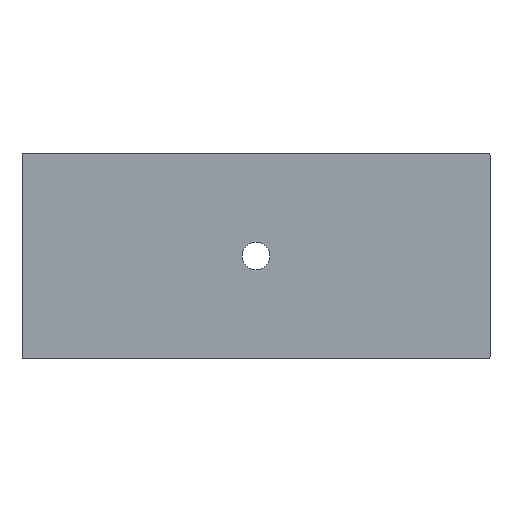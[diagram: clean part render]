
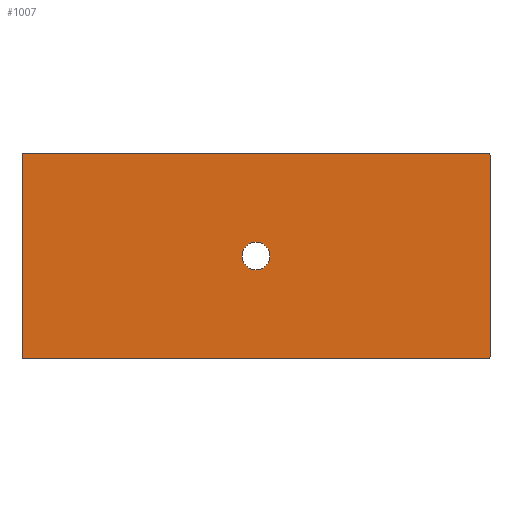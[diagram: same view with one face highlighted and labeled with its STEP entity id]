
A CAD part, front view. The second image highlights one B-rep face of the part: STEP entity #1007.
In plain terms, the highlighted planar face has unit normal (0, -1, 0).
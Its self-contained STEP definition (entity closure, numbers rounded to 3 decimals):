
#45 = CARTESIAN_POINT ( 'NONE',  ( -797.929, 0., -350. ) ) ;
#86 = PLANE ( 'NONE',  #1241 ) ;
#93 = CARTESIAN_POINT ( 'NONE',  ( -800., 0., -347.929 ) ) ;
#97 = CARTESIAN_POINT ( 'NONE',  ( 795.001, 0., 350. ) ) ;
#168 = EDGE_CURVE ( 'NONE', #1772, #2523, #1631, .T. ) ;
#183 = VERTEX_POINT ( 'NONE', #217 ) ;
#214 = VERTEX_POINT ( 'NONE', #835 ) ;
#217 = CARTESIAN_POINT ( 'NONE',  ( -795.001, 0., 350. ) ) ;
#255 = CARTESIAN_POINT ( 'NONE',  ( -800., 0., 345.001 ) ) ;
#306 = CARTESIAN_POINT ( 'NONE',  ( -800., 0., 345.001 ) ) ;
#323 = CARTESIAN_POINT ( 'NONE',  ( -800., 0., 350. ) ) ;
#379 = EDGE_CURVE ( 'NONE', #397, #1138, #1941, .T. ) ;
#390 = CARTESIAN_POINT ( 'NONE',  ( -800., 0., -345.001 ) ) ;
#397 = VERTEX_POINT ( 'NONE', #1919 ) ;
#431 = CARTESIAN_POINT ( 'NONE',  ( 800., 0., -345.001 ) ) ;
#460 = EDGE_CURVE ( 'NONE', #1871, #214, #1518, .T. ) ;
#464 = CARTESIAN_POINT ( 'NONE',  ( -797.929, 0., 350. ) ) ;
#490 = CARTESIAN_POINT ( 'NONE',  ( 795.001, 0., -350. ) ) ;
#586 = VECTOR ( 'NONE', #1129, 1000. ) ;
#675 = CARTESIAN_POINT ( 'NONE',  ( 800., 0., 345.001 ) ) ;
#679 = AXIS2_PLACEMENT_3D ( 'NONE', #2594, #2488, #895 ) ;
#687 = EDGE_CURVE ( 'NONE', #183, #865, #2337, .T. ) ;
#715 = VECTOR ( 'NONE', #2592, 1000. ) ;
#740 = EDGE_CURVE ( 'NONE', #183, #1138, #2518, .T. ) ;
#799 = CARTESIAN_POINT ( 'NONE',  ( 800., 0., -347.929 ) ) ;
#835 = CARTESIAN_POINT ( 'NONE',  ( -795.001, 0., -350. ) ) ;
#865 = VERTEX_POINT ( 'NONE', #1882 ) ;
#889 = CARTESIAN_POINT ( 'NONE',  ( 800., 0., 347.929 ) ) ;
#895 = DIRECTION ( 'NONE',  ( 0., 0., -1. ) ) ;
#902 = DIRECTION ( 'NONE',  ( 0., 0., 1. ) ) ;
#938 = EDGE_CURVE ( 'NONE', #1772, #865, #2164, .T. ) ;
#952 = ORIENTED_EDGE ( 'NONE', *, *, #740, .T. ) ;
#981 = CARTESIAN_POINT ( 'NONE',  ( 795.001, 0., -350. ) ) ;
#1007 = ADVANCED_FACE ( 'NONE', ( #2521, #1905 ), #86, .F. ) ;
#1020 = ORIENTED_EDGE ( 'NONE', *, *, #379, .F. ) ;
#1063 = DIRECTION ( 'NONE',  ( 0., 1., 0. ) ) ;
#1065 = ORIENTED_EDGE ( 'NONE', *, *, #2228, .T. ) ;
#1083 = CARTESIAN_POINT ( 'NONE',  ( -795.001, 0., -350. ) ) ;
#1092 =( BOUNDED_CURVE ( )  B_SPLINE_CURVE ( 3, ( #981, #1815, #799, #1989 ),
 .UNSPECIFIED., .F., .T. ) 
 B_SPLINE_CURVE_WITH_KNOTS ( ( 4, 4 ),
 ( 5.498, 7.068 ),
 .UNSPECIFIED. ) 
 CURVE ( )  GEOMETRIC_REPRESENTATION_ITEM ( )  RATIONAL_B_SPLINE_CURVE ( ( 1., 0.805, 0.805, 1. ) ) 
 REPRESENTATION_ITEM ( '' )  );
#1129 = DIRECTION ( 'NONE',  ( 1., 0., 0. ) ) ;
#1138 = VERTEX_POINT ( 'NONE', #306 ) ;
#1217 = EDGE_CURVE ( 'NONE', #1871, #2523, #1092, .T. ) ;
#1241 = AXIS2_PLACEMENT_3D ( 'NONE', #2057, #1063, #902 ) ;
#1283 = EDGE_LOOP ( 'NONE', ( #1747, #1455, #1608, #1644, #1895, #952, #1020, #1065 ) ) ;
#1336 = CARTESIAN_POINT ( 'NONE',  ( 800., 0., -350. ) ) ;
#1397 = CARTESIAN_POINT ( 'NONE',  ( 0., 0., -47.5 ) ) ;
#1455 = ORIENTED_EDGE ( 'NONE', *, *, #1217, .T. ) ;
#1467 = CARTESIAN_POINT ( 'NONE',  ( 797.929, 0., 350. ) ) ;
#1502 = CARTESIAN_POINT ( 'NONE',  ( 800., 0., 345.001 ) ) ;
#1518 = LINE ( 'NONE', #1336, #2031 ) ;
#1543 = DIRECTION ( 'NONE',  ( 0., 0., 1. ) ) ;
#1608 = ORIENTED_EDGE ( 'NONE', *, *, #168, .F. ) ;
#1615 = CARTESIAN_POINT ( 'NONE',  ( 800., 0., 350. ) ) ;
#1631 = LINE ( 'NONE', #1615, #715 ) ;
#1644 = ORIENTED_EDGE ( 'NONE', *, *, #938, .T. ) ;
#1736 = DIRECTION ( 'NONE',  ( -1., 0., 0. ) ) ;
#1747 = ORIENTED_EDGE ( 'NONE', *, *, #460, .F. ) ;
#1772 = VERTEX_POINT ( 'NONE', #1502 ) ;
#1815 = CARTESIAN_POINT ( 'NONE',  ( 797.929, 0., -350. ) ) ;
#1871 = VERTEX_POINT ( 'NONE', #490 ) ;
#1882 = CARTESIAN_POINT ( 'NONE',  ( 795.001, 0., 350. ) ) ;
#1893 = CARTESIAN_POINT ( 'NONE',  ( -800., 0., 347.929 ) ) ;
#1895 = ORIENTED_EDGE ( 'NONE', *, *, #687, .F. ) ;
#1905 = FACE_OUTER_BOUND ( 'NONE', #1283, .T. ) ;
#1915 = CARTESIAN_POINT ( 'NONE',  ( -795.001, 0., 350. ) ) ;
#1919 = CARTESIAN_POINT ( 'NONE',  ( -800., 0., -345.001 ) ) ;
#1941 = LINE ( 'NONE', #2525, #2412 ) ;
#1989 = CARTESIAN_POINT ( 'NONE',  ( 800., 0., -345.001 ) ) ;
#2031 = VECTOR ( 'NONE', #1736, 1000. ) ;
#2057 = CARTESIAN_POINT ( 'NONE',  ( 0., 0., 0. ) ) ;
#2076 = CIRCLE ( 'NONE', #679, 47.5 ) ;
#2095 = ORIENTED_EDGE ( 'NONE', *, *, #2263, .F. ) ;
#2164 =( BOUNDED_CURVE ( )  B_SPLINE_CURVE ( 3, ( #675, #889, #1467, #97 ),
 .UNSPECIFIED., .F., .F. ) 
 B_SPLINE_CURVE_WITH_KNOTS ( ( 4, 4 ),
 ( 5.498, 7.068 ),
 .UNSPECIFIED. ) 
 CURVE ( )  GEOMETRIC_REPRESENTATION_ITEM ( )  RATIONAL_B_SPLINE_CURVE ( ( 1., 0.805, 0.805, 1. ) ) 
 REPRESENTATION_ITEM ( '' )  );
#2228 = EDGE_CURVE ( 'NONE', #397, #214, #2249, .T. ) ;
#2249 =( BOUNDED_CURVE ( )  B_SPLINE_CURVE ( 3, ( #390, #93, #45, #1083 ),
 .UNSPECIFIED., .F., .T. ) 
 B_SPLINE_CURVE_WITH_KNOTS ( ( 4, 4 ),
 ( 5.498, 7.068 ),
 .UNSPECIFIED. ) 
 CURVE ( )  GEOMETRIC_REPRESENTATION_ITEM ( )  RATIONAL_B_SPLINE_CURVE ( ( 1., 0.805, 0.805, 1. ) ) 
 REPRESENTATION_ITEM ( '' )  );
#2263 = EDGE_CURVE ( 'NONE', #2591, #2591, #2076, .T. ) ;
#2337 = LINE ( 'NONE', #323, #586 ) ;
#2370 = EDGE_LOOP ( 'NONE', ( #2095 ) ) ;
#2412 = VECTOR ( 'NONE', #1543, 1000. ) ;
#2488 = DIRECTION ( 'NONE',  ( 0., -1., 0. ) ) ;
#2518 =( BOUNDED_CURVE ( )  B_SPLINE_CURVE ( 3, ( #1915, #464, #1893, #255 ),
 .UNSPECIFIED., .F., .T. ) 
 B_SPLINE_CURVE_WITH_KNOTS ( ( 4, 4 ),
 ( 5.498, 7.068 ),
 .UNSPECIFIED. ) 
 CURVE ( )  GEOMETRIC_REPRESENTATION_ITEM ( )  RATIONAL_B_SPLINE_CURVE ( ( 1., 0.805, 0.805, 1. ) ) 
 REPRESENTATION_ITEM ( '' )  );
#2521 = FACE_BOUND ( 'NONE', #2370, .T. ) ;
#2523 = VERTEX_POINT ( 'NONE', #431 ) ;
#2525 = CARTESIAN_POINT ( 'NONE',  ( -800., 0., -350. ) ) ;
#2591 = VERTEX_POINT ( 'NONE', #1397 ) ;
#2592 = DIRECTION ( 'NONE',  ( 0., 0., -1. ) ) ;
#2594 = CARTESIAN_POINT ( 'NONE',  ( 0., 0., 0. ) ) ;
